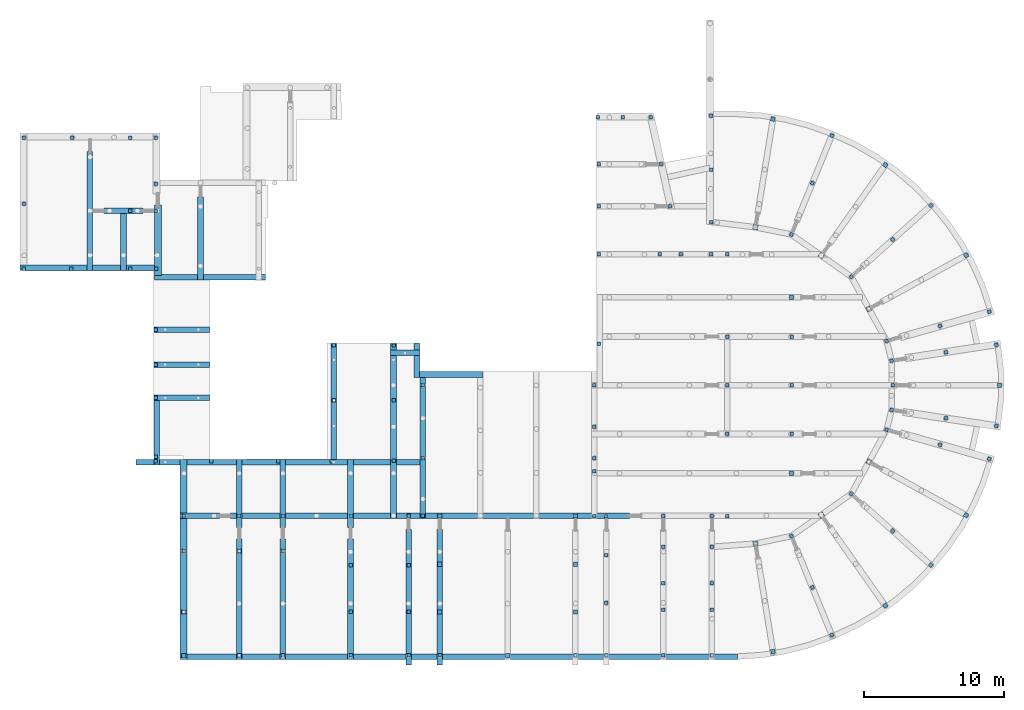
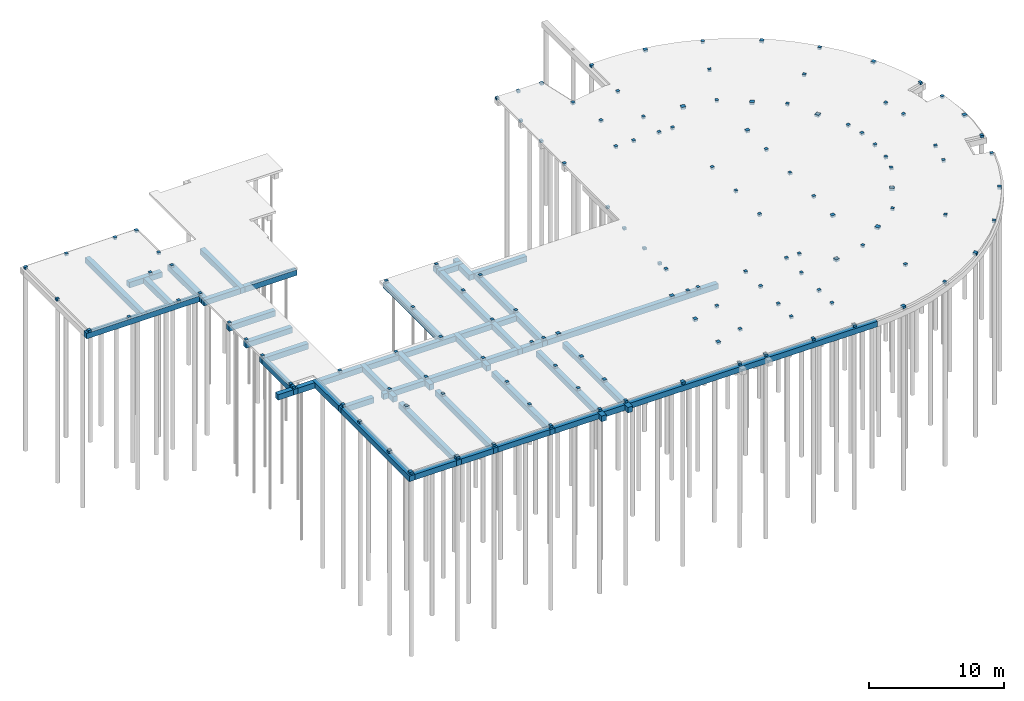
# One storey, part 4 of 22: 137 columns, 30 beams.
"""IFC2X3 building model written with IfcOpenShell, lengths in millimetres."""

import ifcopenshell
import ifcopenshell.guid

model = None  # the IFC model being written
_history = None  # IfcOwnerHistory: only IFC2X3 demands one
_inside = {}  # id of a spatial element -> (the spatial element, [elements in it])
_under = {}  # id of a project, library or spatial element -> (it, [spatial elements below it])
_declared = {}  # id of a project -> (the project, [libraries it declares])
_typed = {}  # id of a type object -> (the type object, [elements of that type])
_made_of = {}  # id of a material, layer set ... -> (it, [elements and type objects made of it])


def new_model(schema):
    """Start an empty IFC model of exactly this schema.

    Asked for "IFC4X3", IfcOpenShell would pick the latest addendum, in which some entities
    have other attributes; the version numbers below select the first issue.
    IFC2X3 requires an IfcOwnerHistory on every rooted entity: one is made here for all.
    """
    global model, _history
    if schema == "IFC4X3":
        model = ifcopenshell.file(schema_version=(4, 3, 0, 0))
    else:
        model = ifcopenshell.file(schema=schema)
    _inside.clear()
    _under.clear()
    _declared.clear()
    _typed.clear()
    _made_of.clear()
    _history = None
    if model.schema == "IFC2X3":
        org = make("IfcOrganization", Name="unknown")
        user = make(
            "IfcPersonAndOrganization",
            ThePerson=make("IfcPerson", FamilyName="unknown"),
            TheOrganization=org,
        )
        app = make(
            "IfcApplication",
            ApplicationDeveloper=org,
            Version="unknown",
            ApplicationFullName="unknown",
            ApplicationIdentifier="unknown",
        )
        _history = make(
            "IfcOwnerHistory",
            OwningUser=user,
            OwningApplication=app,
            ChangeAction="ADDED",
            CreationDate=0,
        )
    return model


def make(cls, **values):
    """One entity of the class cls with the attributes given. An attribute that is None is left unset."""
    return model.create_entity(
        cls, **{name: value for name, value in values.items() if value is not None}
    )


def rooted(cls, **values):
    """An entity with a GlobalId (a new one), such as an element, a storey or a relation."""
    return make(cls, GlobalId=ifcopenshell.guid.new(), OwnerHistory=_history, **values)


def si_unit(unit_type, name, prefix=None):
    """IfcSIUnit, for example si_unit("LENGTHUNIT", "METRE", prefix="MILLI")."""
    return make("IfcSIUnit", UnitType=unit_type, Prefix=prefix, Name=name)


def assignment(units):
    """IfcUnitAssignment: the units of a project."""
    return None if units is None else make("IfcUnitAssignment", Units=units)


def point(xyz):
    """IfcCartesianPoint."""
    return None if xyz is None else make("IfcCartesianPoint", Coordinates=xyz)


def direction(xyz):
    """IfcDirection."""
    return None if xyz is None else make("IfcDirection", DirectionRatios=xyz)


def frame(location, z_axis=None, x_axis=None):
    """IfcAxis2Placement3D, a coordinate frame: its origin and axes. An axis left out is left unset."""
    return make(
        "IfcAxis2Placement3D",
        Location=point(location),
        Axis=direction(z_axis),
        RefDirection=direction(x_axis),
    )


def frame_2d(location, x_axis=None):
    """IfcAxis2Placement2D, a coordinate frame in the plane: its origin and x axis."""
    return make(
        "IfcAxis2Placement2D", Location=point(location), RefDirection=direction(x_axis)
    )


def origin_with_axes():
    """The frame at (0, 0, 0) with the z axis (0, 0, 1) and the x axis (1, 0, 0) written out."""
    return frame((0.0, 0.0, 0.0), z_axis=(0.0, 0.0, 1.0), x_axis=(1.0, 0.0, 0.0))


def origin_2d_with_axis():
    """The frame at (0, 0) in the plane with the x axis (1, 0) written out."""
    return frame_2d((0.0, 0.0), x_axis=(1.0, 0.0))


def place(relative_to, where):
    """IfcLocalPlacement: puts the frame where relative to a parent placement (None: the world)."""
    return make(
        "IfcLocalPlacement", PlacementRelTo=relative_to, RelativePlacement=where
    )


def context(
    kind, dimensions, precision=None, world=None, true_north=None, identifier=None
):
    """IfcGeometricRepresentationContext, for example the 3D "Model" context."""
    return make(
        "IfcGeometricRepresentationContext",
        ContextIdentifier=identifier,
        ContextType=kind,
        CoordinateSpaceDimension=dimensions,
        Precision=precision,
        WorldCoordinateSystem=world,
        TrueNorth=true_north,
    )


def subcontext(parent, identifier, kind, view, scale=None):
    """IfcGeometricRepresentationSubContext, for example "Body" below "Model"."""
    return make(
        "IfcGeometricRepresentationSubContext",
        ContextIdentifier=identifier,
        ContextType=kind,
        ParentContext=parent,
        TargetScale=scale,
        TargetView=view,
    )


def project(units=None, contexts=None):
    """IfcProject with its units and contexts."""
    return rooted(
        "IfcProject",
        Name="project",
        RepresentationContexts=contexts,
        UnitsInContext=assignment(units),
    )


def spatial(cls, under=None, at=None, **own):
    """A site, building, storey or space (cls), placed at a placement, below another one or the project."""
    s = rooted(cls, ObjectPlacement=at, **own)
    if under is not None:
        _under.setdefault(under.id(), (under, []))[1].append(s)
    return s


def profile(cls, at=None, kind="AREA", **sizes):
    """A parametric profile (cls). Its sizes go by their IFC names, for example OverallWidth=200.0."""
    return make(cls, ProfileType=kind, Position=at, **sizes)


def rectangle(**sizes):
    """IfcRectangleProfileDef."""
    return profile("IfcRectangleProfileDef", **sizes)


def extrude(swept, where, along, depth):
    """IfcExtrudedAreaSolid: the profile swept, set in the frame where, extruded along a direction by depth."""
    return make(
        "IfcExtrudedAreaSolid",
        SweptArea=swept,
        Position=where,
        ExtrudedDirection=direction(along),
        Depth=depth,
    )


def clip(a, b, op="DIFFERENCE"):
    """IfcBooleanClippingResult: the solid a cut by the half space b."""
    return make(
        "IfcBooleanClippingResult", Operator=op, FirstOperand=a, SecondOperand=b
    )


def halfspace(plane, agree):
    """IfcHalfSpaceSolid: all space on one side of the plane z = 0 of the frame plane."""
    return make(
        "IfcHalfSpaceSolid",
        BaseSurface=make("IfcPlane", Position=plane),
        AgreementFlag=agree,
    )


def faces_of(points, faces, orient=None, outer=None):
    """IfcFace entities. A face is a list of loops; a loop is a list of indices into points, from 0.

    orient and outer hold one flag for each loop. By default every Orientation is true, the
    first loop of a face is its IfcFaceOuterBound and the others are IfcFaceBound.
    """
    made = []
    for i, loops in enumerate(faces):
        bounds = []
        for j, loop in enumerate(loops):
            is_outer = j == 0 if outer is None else outer[i][j]
            bounds.append(
                make(
                    "IfcFaceOuterBound" if is_outer else "IfcFaceBound",
                    Bound=make("IfcPolyLoop", Polygon=[points[k] for k in loop]),
                    Orientation=True if orient is None else orient[i][j],
                )
            )
        made.append(make("IfcFace", Bounds=bounds))
    return made


def faceted_brep(points, faces, orient=None, outer=None, voids=None):
    """IfcFacetedBrep: a solid bounded by flat faces; with voids (closed shells), ...WithVoids."""
    shared = [point(p) for p in points]
    hull = make("IfcClosedShell", CfsFaces=faces_of(shared, faces, orient, outer))
    if voids is None:
        return make("IfcFacetedBrep", Outer=hull)
    return make(
        "IfcFacetedBrepWithVoids",
        Outer=hull,
        Voids=[
            make(cls, CfsFaces=faces_of(shared, fs, o, b)) for cls, fs, o, b in voids
        ],
    )


def shape(context_of_items, identifier, shape_type, items):
    """IfcShapeRepresentation: the items that make up one representation, for example the "Body"."""
    return make(
        "IfcShapeRepresentation",
        ContextOfItems=context_of_items,
        RepresentationIdentifier=identifier,
        RepresentationType=shape_type,
        Items=items,
    )


def material(Name=None, Category=None):
    """IfcMaterial."""
    return make("IfcMaterial", Name=Name, Category=Category)


def made_of(thing, what):
    """Note that an element or type object is made of a material, layer set ...; save() writes the relation."""
    if what is not None:
        _made_of.setdefault(what.id(), (what, []))[1].append(thing)
    return thing


def type_object(cls, material=None, **own):
    """A type object (cls), such as IfcWallType, which elements share."""
    return made_of(rooted(cls, **own), material)


def element(
    cls,
    number,
    at=None,
    inside=None,
    cuts=None,
    type_object=None,
    material=None,
    context=None,
    identifier="Body",
    shape_type=None,
    held_by="IfcProductDefinitionShape",
    body=None,
    shapes=None,
    **own,
):
    """One element of the class cls, such as IfcWall. Its Tag is "e" and its number.

    at: its placement. inside: the storey or other place that contains it. cuts: it is an
    opening in that element (IfcRelVoidsElement). A single representation is given by context,
    identifier, shape_type and body (its items); several are given by shapes. held_by: the class
    of the entity that holds the representations. save() writes the other relations.
    """
    e = rooted(cls, Tag="e%d" % number, ObjectPlacement=at, **own)
    if body is not None:
        shapes = [shape(context, identifier, shape_type, body)]
    if shapes is not None:
        e.Representation = make(held_by, Representations=shapes)
    if inside is not None:
        _inside.setdefault(inside.id(), (inside, []))[1].append(e)
    if cuts is not None:
        rooted(
            "IfcRelVoidsElement", RelatingBuildingElement=cuts, RelatedOpeningElement=e
        )
    if type_object is not None:
        _typed.setdefault(type_object.id(), (type_object, []))[1].append(e)
    return made_of(e, material)


def aggregate(whole, parts):
    """IfcRelAggregates: a whole, such as a stair, and the parts it consists of."""
    return rooted("IfcRelAggregates", RelatingObject=whole, RelatedObjects=parts)


def save(model, path):
    """Write the relations noted so far, then the file.

    IfcRelAggregates (storeys below a building ...), IfcRelContainedInSpatialStructure (elements
    in a storey), IfcRelDefinesByType, IfcRelAssociatesMaterial and IfcRelDeclares: one each for
    every whole, place, type object, material and project.
    """
    for whole, parts in _under.values():
        aggregate(whole, parts)
    for where, things in _inside.values():
        rooted(
            "IfcRelContainedInSpatialStructure",
            RelatedElements=things,
            RelatingStructure=where,
        )
    for kind, things in _typed.values():
        rooted("IfcRelDefinesByType", RelatedObjects=things, RelatingType=kind)
    for what, things in _made_of.values():
        rooted("IfcRelAssociatesMaterial", RelatedObjects=things, RelatingMaterial=what)
    for by, libraries in _declared.values():
        rooted("IfcRelDeclares", RelatingContext=by, RelatedDefinitions=libraries)
    model.write(path)


model = new_model("IFC2X3")

# Units and contexts
model_context = context("Model", 3, precision=1e-05, world=origin_with_axes())
body_context = subcontext(model_context, "Body", "Model", "MODEL_VIEW")
ifc_project = project(units=[si_unit("LENGTHUNIT", "METRE", prefix="MILLI"), si_unit("AREAUNIT", "SQUARE_METRE"), si_unit("VOLUMEUNIT", "CUBIC_METRE"), si_unit("MASSUNIT", "GRAM", prefix="KILO"), si_unit("TIMEUNIT", "SECOND"), si_unit("PLANEANGLEUNIT", "RADIAN"), si_unit("SOLIDANGLEUNIT", "STERADIAN"), si_unit("THERMODYNAMICTEMPERATUREUNIT", "DEGREE_CELSIUS"), si_unit("LUMINOUSINTENSITYUNIT", "LUMEN")], contexts=[model_context])

# Site, building, storey
site_placement = place(None, origin_with_axes())
site = spatial("IfcSite", under=ifc_project, at=site_placement, Name="Undefined", CompositionType="ELEMENT")
building_placement = place(site_placement, origin_with_axes())
building = spatial("IfcBuilding", under=site, at=building_placement, Name="Undefined", CompositionType="ELEMENT")
storey_placement = place(building_placement, origin_with_axes())
storey = spatial("IfcBuildingStorey", under=building, at=storey_placement, Name="Undefined", CompositionType="ELEMENT", Elevation=0.0)

# Columns
ifc_material = material(Name="CONCRETE/C30/37")
column_type_1 = type_object("IfcColumnType", Name="250*250", PredefinedType="NOTDEFINED")
for number, where, z_axis, x_axis in (
    (1, (9539.36801665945, 14505.0582896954, -270.0), (1.0, 0.0, 0.0), (0.0, 0.0, 1.0)),
    (2, (50451.5705191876, 28990.6363962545, -270.0), (-1.0, 0.0, 0.0), (0.0, 0.0, 1.0)),
    (3, (45626.2295906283, 28990.5771686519, -270.0), (1.0, 0.0, 0.0), (0.0, 0.0, 1.0)),
    (4, (47139.9714044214, 28990.5771686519, -270.0), (1.0, 0.0, 0.0), (0.0, 0.0, 1.0)),
    (5, (49301.5705191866, 28990.6363962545, -270.0), (-1.0, 0.0, 0.0), (0.0, 0.0, 1.0)),
    (6, (55068.8414911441, 16128.3301151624, -270.0), (1.0, 0.0, 0.0), (0.0, 0.0, 1.0)),
    (7, (55068.821233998, 19616.1095999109, -270.0), (0.0, 1.0, 0.0), (0.0, 0.0, 1.0)),
    (8, (56555.1689494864, 34103.0371662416, -270.0), (-0.381013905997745, -0.924569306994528, 0.0), (0.0, 0.0, 1.0)),
    (9, (62309.404139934, 30048.4623866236, -270.0), (-0.745582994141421, -0.66641278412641, 0.0), (0.0, 0.0, 1.0)),
    (10, (65698.6898355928, 23878.9172437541, -270.0), (-0.962244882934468, -0.272185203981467, 0.0), (0.0, 0.0, 1.0)),
    (11, (66109.3119399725, 21971.2258455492, -270.0), (-0.988598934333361, -0.150572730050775, 0.0), (0.0, 0.0, 1.0)),
    (12, (56552.5162358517, 5135.18426346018, -270.0), (-0.377930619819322, 0.925833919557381, 0.0), (0.0, 0.0, 1.0)),
    (13, (62304.1295440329, 9188.40115699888, -270.0), (-0.745540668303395, 0.666460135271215, 0.0), (0.0, 0.0, 1.0)),
    (14, (9540.04928344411, 32118.3665420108, -270.0), (1.0, 0.0, 0.0), (0.0, 0.0, 1.0)),
    (15, (9540.04987094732, 34037.0837576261, -270.0), (1.0, 0.0, 0.0), (0.0, 0.0, 1.0)),
    (16, (9539.97038619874, 37325.9367057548, -270.0), (0.0, -1.0, 0.0), (0.0, 0.0, 1.0)),
    (17, (7710.08014037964, 37325.9569629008, -270.0), (1.0, 0.0, 0.0), (0.0, 0.0, 1.0)),
    (18, (3564.0790151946, 37325.9569629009, -270.0), (1.0, 0.0, 0.0), (0.0, 0.0, 1.0)),
    (19, (7710.07955287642, 32118.3665420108, -270.0), (1.0, 0.0, 0.0), (0.0, 0.0, 1.0)),
    (20, (90.2632341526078, 37325.9367057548, -270.0), (0.0, -1.0, 0.0), (0.0, 0.0, 1.0)),
    (21, (90.2632341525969, 32618.4367057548, -270.0), (0.0, -1.0, 0.0), (0.0, 0.0, 1.0)),
    (22, (90.2632341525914, 27950.9486812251, -270.0), (0.0, -1.0, 0.0), (0.0, 0.0, 1.0)),
    (23, (3480.71294696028, 27950.9626634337, -270.0), (0.0, -1.0, 0.0), (0.0, 0.0, 1.0)),
    (24, (7710.00065563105, 27950.9801050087, -270.0), (0.0, -1.0, 0.0), (0.0, 0.0, 1.0)),
    (25, (9550.00076344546, 27950.9866621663, -270.0), (0.0, -1.0, 0.0), (0.0, 0.0, 1.0)),
    (26, (9539.46123149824, 23603.6793183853, -270.0), (0.0, 1.0, 0.0), (0.0, 0.0, 1.0)),
    (27, (9539.34774425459, 21103.6780213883, -270.0), (0.0, 1.0, 0.0), (0.0, 0.0, 1.0)),
    (28, (9539.34774425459, 18715.7786225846, -270.0), (0.0, 1.0, 0.0), (0.0, 0.0, 1.0)),
    (29, (46348.2318284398, 32438.6867277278, -270.0), (0.216747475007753, -0.976227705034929, 0.0), (0.0, 0.0, 1.0)),
    (30, (45704.4473474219, 35454.4148490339, -270.0), (0.216747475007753, -0.976227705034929, 0.0), (0.0, 0.0, 1.0)),
    (31, (44963.8886172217, 38821.5403393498, -290.0), (1.0, 0.0, 0.0), (0.0, 0.0, 1.0)),
    (32, (42977.3781667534, 38821.5403393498, -290.0), (1.0, 0.0, 0.0), (0.0, 0.0, 1.0)),
    (33, (41183.1166814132, 38821.5403393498, -290.0), (1.0, 0.0, 0.0), (0.0, 0.0, 1.0)),
    (34, (41238.0964242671, 35452.1198240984, -290.0), (0.0, 1.0, 0.0), (0.0, 0.0, 1.0)),
    (35, (41238.066423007, 28990.5771686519, -270.0), (1.0, 0.0, 0.0), (0.0, 0.0, 1.0)),
    (36, (41238.096424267, 32438.7917027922, -290.0), (0.0, 1.0, 0.0), (0.0, 0.0, 1.0)),
    (37, (40940.6981309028, 13462.0523445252, -270.0), (0.0, 1.0, 0.0), (0.0, 0.0, 1.0)),
    (38, (40940.6964242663, 14397.3701214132, -290.0), (0.0, 1.0, 0.0), (0.0, 0.0, 1.0)),
    (39, (40943.0964242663, 16648.4420717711, -290.0), (0.0, 1.0, 0.0), (0.0, 0.0, 1.0)),
    (40, (40940.6964242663, 19616.109599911, -290.0), (0.0, 1.0, 0.0), (0.0, 0.0, 1.0)),
    (41, (41241.5964242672, 22588.6805371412, -290.0), (0.0, 1.0, 0.0), (0.0, 0.0, 1.0)),
    (42, (50451.6500039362, 16128.509599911, -270.0), (0.0, 1.0, 0.0), (0.0, 0.0, 1.0)),
    (43, (50451.6500039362, 19616.1095999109, -270.0), (0.0, 1.0, 0.0), (0.0, 0.0, 1.0)),
    (44, (50451.6500039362, 23108.509599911, -270.0), (0.0, 1.0, 0.0), (0.0, 0.0, 1.0)),
    (45, (55068.7417492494, 23108.4783694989, -270.0), (-1.0, 0.0, 0.0), (0.0, 0.0, 1.0)),
    (46, (49301.5705191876, 35065.3726987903, -270.0), (-1.0, 0.0, 0.0), (0.0, 0.0, 1.0)),
    (47, (49301.5705191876, 31283.4631687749, -270.0), (-1.0, 0.0, 0.0), (0.0, 0.0, 1.0)),
    (48, (55050.5790332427, 30415.812837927, -270.0), (-0.924569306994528, 0.381013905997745, 0.0), (0.0, 0.0, 1.0)),
    (49, (59338.9747567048, 27391.5335348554, -270.0), (-0.666412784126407, 0.745582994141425, 0.0), (0.0, 0.0, 1.0)),
    (50, (61866.9709389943, 22793.5862886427, -270.0), (-0.272185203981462, 0.962244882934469, 0.0), (0.0, 0.0, 1.0)),
    (51, (62224.0760046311, 21379.4734952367, -270.0), (-0.150572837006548, 0.988598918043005, 0.0), (0.0, 0.0, 1.0)),
    (52, (62312.2730479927, 19616.1100423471, -270.0), (0.0, 1.0, 0.0), (0.0, 0.0, 1.0)),
    (53, (62224.0772075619, 17852.6335269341, -270.0), (0.149766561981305, 0.988721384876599, 0.0), (0.0, 0.0, 1.0)),
    (54, (61869.6111647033, 16437.8822317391, -270.0), (0.27210489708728, 0.962267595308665, 0.0), (0.0, 0.0, 1.0)),
    (55, (59336.6378310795, 11842.8737959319, -270.0), (0.666460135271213, 0.745540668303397, 0.0), (0.0, 0.0, 1.0)),
    (56, (55049.4105307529, 8820.75540069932, -270.0), (0.925833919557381, 0.377930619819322, 0.0), (0.0, 0.0, 1.0)),
    (57, (50451.6702610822, 10245.9944815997, -270.0), (1.0, 0.0, 0.0), (0.0, 0.0, 1.0)),
    (58, (49361.6702610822, 10245.9944815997, -270.0), (1.0, 0.0, 0.0), (0.0, 0.0, 1.0)),
    (59, (45874.0252746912, 10245.9944815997, -270.0), (1.0, 0.0, 0.0), (0.0, 0.0, 1.0)),
    (60, (40927.3059057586, 10246.0024978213, -270.0), (1.0, 0.0, 0.0), (0.0, 0.0, 1.0)),
    (61, (41807.335787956, 10245.9944815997, -270.0), (1.0, 0.0, 0.0), (0.0, 0.0, 1.0)),
    (62, (23484.8960958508, 10274.1906366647, -270.0), (1.0, 0.0, 0.0), (0.0, 0.0, 1.0)),
    (63, (27631.6960958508, 10274.1906366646, -270.0), (1.0, 0.0, 0.0), (0.0, 0.0, 1.0)),
    (64, (28660.7463049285, 10274.1988326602, -270.0), (1.0, 0.0, 0.0), (0.0, 0.0, 1.0)),
    (65, (28660.6652205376, 19616.0098580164, -270.0), (0.0, -1.0, 0.0), (0.0, 0.0, 1.0)),
    (66, (28660.6652205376, 14397.2703795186, -270.0), (0.0, -1.0, 0.0), (0.0, 0.0, 1.0)),
    (67, (26557.1957597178, 14215.9944815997, -270.0), (1.0, 0.0, 0.0), (0.0, 0.0, 1.0)),
    (68, (26557.1957597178, 18535.8658141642, -270.0), (1.0, 0.0, 0.0), (0.0, 0.0, 1.0)),
    (69, (26557.1957597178, 22465.7457863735, -270.0), (1.0, 0.0, 0.0), (0.0, 0.0, 1.0)),
    (70, (22289.0498709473, 22468.1457863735, -270.0), (1.0, 0.0, 0.0), (0.0, 0.0, 1.0)),
    (71, (22289.0498709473, 18538.2658141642, -270.0), (1.0, 0.0, 0.0), (0.0, 0.0, 1.0)),
    (72, (22120.0498709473, 14184.7887526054, -270.0), (1.0, 0.0, 0.0), (0.0, 0.0, 1.0)),
    (73, (18320.0498709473, 14184.7887526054, -270.0), (1.0, 0.0, 0.0), (0.0, 0.0, 1.0)),
    (74, (13520.0498709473, 14184.7887526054, -270.0), (1.0, 0.0, 0.0), (0.0, 0.0, 1.0)),
    (75, (9539.36801665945, 14184.7887526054, -270.0), (1.0, 0.0, 0.0), (0.0, 0.0, 1.0)),
    (76, (11541.9807392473, 10274.1785602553, -270.0), (0.0, -1.0, 0.0), (0.0, 0.0, 1.0)),
    (77, (11541.9808150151, 7759.86819259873, -270.0), (0.0, -1.0, 0.0), (0.0, 0.0, 1.0)),
    (78, (15506.5602997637, 10274.1906366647, -270.0), (1.0, 0.0, 0.0), (0.0, 0.0, 1.0)),
    (79, (18632.7447052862, 10274.1906366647, -270.0), (1.0, 0.0, 0.0), (0.0, 0.0, 1.0)),
    (80, (18632.7447052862, 7749.73626611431, -270.0), (1.0, 0.0, 0.0), (0.0, 0.0, 1.0)),
    (81, (23484.8960958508, 6719.23626611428, -270.0), (1.0, 0.0, 0.0), (0.0, 0.0, 1.0)),
    (82, (23484.8960958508, 3385.68914714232, -270.0), (1.0, 0.0, 0.0), (0.0, 0.0, 1.0)),
    (83, (27631.6960958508, 6719.23626611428, -270.0), (1.0, 0.0, 0.0), (0.0, 0.0, 1.0)),
    (84, (27631.6960958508, 3388.09710994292, -270.0), (1.0, 0.0, 0.0), (0.0, 0.0, 1.0)),
    (85, (41807.335787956, 4027.59160850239, -270.0), (1.0, 0.0, 0.0), (0.0, 0.0, 1.0)),
    (86, (41807.335787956, 7461.39739015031, -270.0), (1.0, 0.0, 0.0), (0.0, 0.0, 1.0)),
    (87, (45874.4817429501, 8055.40299283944, -270.0), (1.0, 0.0, 0.0), (0.0, 0.0, 1.0)),
    (88, (45874.0084009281, 5439.6315025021, -270.0), (1.0, 0.0, 0.0), (0.0, 0.0, 1.0)),
    (89, (45874.0084009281, 3530.69632610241, -270.0), (1.0, 0.0, 0.0), (0.0, 0.0, 1.0)),
    (90, (49362.1702610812, 8046.13157798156, -270.0), (1.0, 0.0, 0.0), (0.0, 0.0, 1.0)),
    (91, (49362.1702610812, 5453.09632610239, -270.0), (1.0, 0.0, 0.0), (0.0, 0.0, 1.0)),
    (92, (49362.1702610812, 3537.0963261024, -270.0), (1.0, 0.0, 0.0), (0.0, 0.0, 1.0)),
    (93, (66112.6157205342, 17260.4118313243, -270.0), (0.149766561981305, 0.988721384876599, 0.0), (0.0, 0.0, 1.0)),
    (94, (65696.6598935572, 15353.831189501, -270.0), (0.27210489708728, 0.962267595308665, 0.0), (0.0, 0.0, 1.0)),
    (95, (49301.5907763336, 38927.2289512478, -270.0), (0.0, -1.0, 0.0), (0.0, 0.0, 1.0)),
    (96, (57938.268101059, 37494.0010410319, -270.0), (-0.381013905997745, -0.924569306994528, 0.0), (0.0, 0.0, 1.0)),
    (97, (65036.978785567, 32488.3056692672, -270.0), (-0.745582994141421, -0.66641278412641, 0.0), (0.0, 0.0, 1.0)),
    (98, (69225.0201510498, 24877.6738837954, -270.0), (-0.962244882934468, -0.272185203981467, 0.0), (0.0, 0.0, 1.0)),
    (99, (69733.9940918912, 22523.2850408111, -270.0), (-0.988598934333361, -0.150572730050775, 0.0), (0.0, 0.0, 1.0)),
    (100, (69734.0074229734, 16708.5455765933, -270.0), (-0.988721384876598, 0.149766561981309, 0.0), (0.0, 0.0, 1.0)),
    (101, (69225.1545053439, 14354.4633085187, -270.0), (-0.962267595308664, 0.272104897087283, 0.0), (0.0, 0.0, 1.0)),
    (102, (65037.7021218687, 6743.87872642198, -270.0), (-0.745540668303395, 0.666460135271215, 0.0), (0.0, 0.0, 1.0)),
    (103, (57938.4982819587, 1738.23413082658, -270.0), (-0.377930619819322, 0.925833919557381, 0.0), (0.0, 0.0, 1.0)),
    (104, (49362.1500039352, 274.671085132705, -270.0), (0.0, 1.0, 0.0), (0.0, 0.0, 1.0)),
    (105, (45873.9881437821, 274.671085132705, -270.0), (0.0, 1.0, 0.0), (0.0, 0.0, 1.0)),
    (106, (41807.31553081, 274.671093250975, -270.0), (0.0, 1.0, 0.0), (0.0, 0.0, 1.0)),
    (107, (39587.3091504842, 274.671093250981, -270.0), (0.0, 1.0, 0.0), (0.0, 0.0, 1.0)),
    (108, (29874.5272292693, 274.671093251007, -270.0), (0.0, 1.0, 0.0), (0.0, 0.0, 1.0)),
    (109, (27656.5255355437, 274.621345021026, -270.0), (0.0, 1.0, 0.0), (0.0, 0.0, 1.0)),
    (110, (23484.8610417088, 270.47870433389, -270.0), (0.0, 1.0, 0.0), (0.0, 0.0, 1.0)),
    (111, (18638.7096511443, 274.721345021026, -270.0), (0.0, 1.0, 0.0), (0.0, 0.0, 1.0)),
):
    element("IfcColumn", number, at=place(storey_placement, frame(where, z_axis=z_axis, x_axis=x_axis)), inside=storey, type_object=column_type_1, material=ifc_material, Name="Opstort", context=body_context, shape_type="Brep", body=[
        faceted_brep([(0.0, 125.0, -125.0), (0.0, 125.0, 125.0), (200.0, 125.0, 125.0), (200.0, 125.0, -125.0), (0.0, -125.0, 125.0), (200.0, -125.0, 125.0), (0.0, -125.0, -125.0), (200.0, -125.0, -125.0)], [[[0, 1, 2, 3]], [[1, 4, 5, 2]], [[4, 6, 7, 5]], [[6, 0, 3, 7]], [[5, 7, 3, 2]], [[6, 4, 1, 0]]]),
    ])
column_type_2 = type_object("IfcColumnType", Name="300*300", PredefinedType="NOTDEFINED")
for number, where, z_axis, x_axis in (
    (112, (29873.8534425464, 10245.9272080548, -270.0), (0.00110945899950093, 0.999999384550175, 0.0), (0.0, 0.0, 1.0)),
    (113, (39586.6334413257, 10246.226600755, -270.0), (0.00110945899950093, 0.999999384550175, 0.0), (0.0, 0.0, 1.0)),
    (114, (55068.836123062, 13315.6140477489, -270.0), (0.999999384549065, -0.00110945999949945, 0.0), (0.0, 0.0, 1.0)),
    (115, (55068.7471173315, 25918.0774675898, -270.0), (-0.999999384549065, 0.00110945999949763, 0.0), (0.0, 0.0, 1.0)),
    (116, (39587.3167332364, 6802.41165429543, -270.0), (0.00110945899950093, 0.999999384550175, 0.0), (0.0, 0.0, 1.0)),
    (117, (39587.3167332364, 3385.76326380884, -270.0), (0.00110945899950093, 0.999999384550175, 0.0), (0.0, 0.0, 1.0)),
    (118, (29874.5348120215, 6802.41165429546, -270.0), (0.00110945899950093, 0.999999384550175, 0.0), (0.0, 0.0, 1.0)),
    (119, (29874.5348120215, 3385.76326380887, -270.0), (0.00110945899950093, 0.999999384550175, 0.0), (0.0, 0.0, 1.0)),
    (120, (15506.4732322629, 7753.87356068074, -270.0), (-0.00110945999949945, -0.999999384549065, 0.0), (0.0, 0.0, 1.0)),
    (121, (11541.9728665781, 3388.23220714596, -270.0), (-0.00110945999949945, -0.999999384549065, 0.0), (0.0, 0.0, 1.0)),
    (122, (53729.3385216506, 38675.7845417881, -270.0), (0.160760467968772, 0.986993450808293, 0.0), (0.0, 0.0, 1.0)),
    (123, (61773.2603341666, 35395.4213427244, -270.0), (0.577462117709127, 0.816417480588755, 0.0), (0.0, 0.0, 1.0)),
    (124, (67564.4461081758, 28921.2523554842, -270.0), (-0.876861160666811, -0.480743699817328, 0.0), (0.0, 0.0, 1.0)),
    (125, (69954.7181514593, 19616.0973679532, -270.0), (-0.999999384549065, 0.00110945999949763, 0.0), (0.0, 0.0, 1.0)),
    (126, (67563.6520966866, 10311.0161476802, -270.0), (-0.875792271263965, 0.48268819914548, 0.0), (0.0, 0.0, 1.0)),
    (127, (61773.4954601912, 3836.29087666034, -270.0), (-0.575649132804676, 0.81769681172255, 0.0), (0.0, 0.0, 1.0)),
    (128, (53729.7097903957, 556.379119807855, -270.0), (-0.158570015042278, 0.987347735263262, 0.0), (0.0, 0.0, 1.0)),
    (129, (34741.311826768, 274.771093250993, -270.0), (0.0, 1.0, 0.0), (0.0, 0.0, 1.0)),
    (130, (11542.0092854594, 274.771469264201, -270.0), (0.0, 1.0, 0.0), (0.0, 0.0, 1.0)),
    (131, (15506.5096511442, 274.721345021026, -270.0), (0.0, 1.0, 0.0), (0.0, 0.0, 1.0)),
):
    element("IfcColumn", number, at=place(storey_placement, frame(where, z_axis=z_axis, x_axis=x_axis)), inside=storey, type_object=column_type_2, material=ifc_material, Name="Opstort", context=body_context, shape_type="Brep", body=[
        faceted_brep([(0.0, 149.999999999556, -149.999999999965), (0.0, 149.999999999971, 150.0000000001), (200.0, 149.999999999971, 150.0000000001), (200.0, 149.999999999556, -149.999999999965), (0.0, -149.999999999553, 149.999999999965), (200.0, -149.999999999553, 149.999999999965), (0.0, -149.99999999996, -150.0000000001), (200.0, -149.99999999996, -150.0000000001)], [[[0, 1, 2, 3]], [[1, 4, 5, 2]], [[4, 6, 7, 5]], [[6, 0, 3, 7]], [[5, 7, 3, 2]], [[6, 4, 1, 0]]]),
    ])
column_type_3 = type_object("IfcColumnType", Name="350*350", PredefinedType="NOTDEFINED")
for number, where, z_axis, x_axis in (
    (132, (52477.6024495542, 30933.1675890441, -270.0), (-0.979789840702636, 0.200029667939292, 0.0), (0.0, 0.0, 1.0)),
    (133, (57193.5937733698, 28903.8390199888, -270.0), (-0.816416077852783, 0.577464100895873, 0.0), (0.0, 0.0, 1.0)),
    (134, (60591.0653225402, 25085.5822234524, -270.0), (-0.481452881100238, 0.876471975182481, 0.0), (0.0, 0.0, 1.0)),
    (135, (60601.1926605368, 14143.1051493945, -270.0), (0.482528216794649, 0.875880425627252, 0.0), (0.0, 0.0, 1.0)),
    (136, (57192.8033470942, 10333.7543398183, -270.0), (0.818332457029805, 0.574745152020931, 0.0), (0.0, 0.0, 1.0)),
    (137, (52480.9515486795, 8277.19266374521, -270.0), (0.98745885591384, 0.157876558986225, 0.0), (0.0, 0.0, 1.0)),
):
    element("IfcColumn", number, at=place(storey_placement, frame(where, z_axis=z_axis, x_axis=x_axis)), inside=storey, type_object=column_type_3, material=ifc_material, Name="Opstort", context=body_context, shape_type="Brep", body=[
        faceted_brep([(0.0, 175.0000000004, -175.000000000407), (0.0, 174.999999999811, 175.000000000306), (200.0, 174.999999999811, 175.000000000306), (200.0, 174.999999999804, -175.00000000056), (0.0, -174.999999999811, 175.000000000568), (200.0, -174.999999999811, 175.000000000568), (0.0, -174.999999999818, -175.000000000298), (200.0, -174.999999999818, -175.000000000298)], [[[0, 1, 2, 3]], [[1, 4, 5, 2]], [[4, 6, 7, 5]], [[6, 0, 3, 7]], [[5, 7, 3, 2]], [[6, 4, 1, 0]]]),
    ])

# Beams
beam_type_1 = type_object("IfcBeamType", Name="400*500", PredefinedType="NOTDEFINED")
beam_1_placement = place(storey_placement, frame((9603.53099219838, 13909.7594193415, -520.0), z_axis=(0.0, 0.0, 1.0), x_axis=(0.0, 1.0, 0.0)))
element("IfcBeam", 138, at=beam_1_placement, inside=storey, type_object=beam_type_1, material=ifc_material, Name="BALK", context=body_context, shape_type="SweptSolid", body=[
    extrude(rectangle(XDim=400.0, YDim=500.0, at=origin_2d_with_axis()), frame((5003.7701130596, 1.81898940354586e-12, 0.0), z_axis=(-1.0, 0.0, 0.0), x_axis=(0.0, -1.0, 0.0)), (0.0, 0.0, 1.0), 5003.77),
])
beam_2_placement = place(storey_placement, frame((7220.94897512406, 27829.5078255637, -520.0), z_axis=(0.0, 0.0, 1.0), x_axis=(-2.34999999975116e-06, 0.999999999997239, 0.0)))
element("IfcBeam", 139, at=beam_2_placement, inside=storey, type_object=beam_type_1, material=ifc_material, Name="BALK", context=body_context, shape_type="SweptSolid", body=[
    extrude(rectangle(XDim=400.0, YDim=500.0, at=origin_2d_with_axis()), frame((4486.47039254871, 0.0, 0.0), z_axis=(-1.0, 0.0, 0.0), x_axis=(0.0, -1.0, 0.0)), (0.0, 0.0, 1.0), 4486.47),
])
for number, where, z_axis, x_axis, name in (
    (140, (23479.8341918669, 9423.77169555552, -520.0), (0.0, 0.0, 1.0), (0.0, 1.0, 0.0), "BALK"),
    (141, (18632.6948333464, 9423.77169555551, -520.0), (0.0, 0.0, 1.0), (0.0, 1.0, 0.0), "BALK"),
):
    element("IfcBeam", number, at=place(storey_placement, frame(where, z_axis=z_axis, x_axis=x_axis)), inside=storey, type_object=beam_type_1, material=ifc_material, Name=name, context=body_context, shape_type="Clipping", body=[
        clip(extrude(rectangle(XDim=400.0, YDim=500.0, at=origin_2d_with_axis()), frame((4886.01705704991, 0.0, 0.0), z_axis=(-1.0, 0.0, 0.0), x_axis=(0.0, -1.0, 0.0)), (0.0, 0.0, 1.0), 4886.02), halfspace(frame((4886.01705704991, 0.0, 0.0), z_axis=(1.0, 0.0, 0.0), x_axis=(0.0, 0.0, 1.0)), False)),
    ])
beam_3_placement = place(storey_placement, frame((15506.5104842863, 9423.77169555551, -520.0), z_axis=(0.0, 0.0, 1.0), x_axis=(0.0, 1.0, 0.0)))
element("IfcBeam", 142, at=beam_3_placement, inside=storey, type_object=beam_type_1, material=ifc_material, Name="BALK", context=body_context, shape_type="Clipping", body=[
    clip(extrude(rectangle(XDim=400.0, YDim=500.0, at=origin_2d_with_axis()), frame((4886.01705704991, 0.0, 0.0), z_axis=(-1.0, 0.0, 0.0), x_axis=(0.0, -1.0, 0.0)), (0.0, 0.0, 1.0), 4886.02), halfspace(frame((4886.01705704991, 0.0, 0.0), z_axis=(-1.0, 0.0, 0.0), x_axis=(0.0, 0.0, -1.0)), True)),
])
beam_4_placement = place(storey_placement, frame((14886.4997329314, 10273.6240965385, -520.0), z_axis=(0.0, 0.0, 1.0), x_axis=(1.0, 0.0, 0.0)))
element("IfcBeam", 143, at=beam_4_placement, inside=storey, type_object=beam_type_1, material=ifc_material, Name="BALK", context=body_context, shape_type="SweptSolid", body=[
    extrude(rectangle(XDim=400.0, YDim=500.0, at=origin_2d_with_axis()), frame((28554.1666887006, 0.0, 0.0), z_axis=(-1.0, 0.0, 0.0), x_axis=(0.0, -1.0, 0.0)), (0.0, 0.0, 1.0), 28554.17),
])
beam_5_placement = place(storey_placement, frame((8625.00076293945, 32115.9883117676, -520.0), z_axis=(0.0, 0.0, 1.0), x_axis=(-0.999999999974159, -7.18899999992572e-06, 0.0)))
element("IfcBeam", 144, at=beam_5_placement, inside=storey, type_object=beam_type_1, material=ifc_material, Name="BALK", context=body_context, shape_type="SweptSolid", body=[
    extrude(rectangle(XDim=400.0, YDim=500.0, at=origin_2d_with_axis()), frame((2808.07984805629, -2.37853614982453e-18, 1.13686837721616e-13), z_axis=(-1.0, 0.0, 0.0), x_axis=(0.0, -1.0, 0.0)), (0.0, 0.0, 1.0), 2808.08),
])
beam_6_placement = place(storey_placement, frame((28450.6958697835, 21935.7959517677, -520.0), z_axis=(0.0, 0.0, 1.0), x_axis=(-1.0, 0.0, 0.0)))
element("IfcBeam", 145, at=beam_6_placement, inside=storey, type_object=beam_type_1, material=ifc_material, Name="BALK", context=body_context, shape_type="Clipping", body=[
    clip(clip(extrude(rectangle(XDim=400.0, YDim=500.0, at=origin_2d_with_axis()), frame((2093.55016271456, 0.0, 0.0), z_axis=(-1.0, 0.0, 0.0), x_axis=(0.0, -1.0, 0.0)), (0.0, 0.0, 1.0), 2093.55), halfspace(frame((2093.55016271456, 0.0, 0.0), z_axis=(1.0, 0.0, 0.0), x_axis=(0.0, 0.0, 1.0)), False)), halfspace(frame((16.6953952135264, 0.0, 0.0), z_axis=(1.0, 0.0, 0.0), x_axis=(0.0, 0.0, -1.0)), True)),
])
beam_7_placement = place(storey_placement, frame((28234.0004798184, 20186.3195997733, -520.0), z_axis=(0.0, 0.0, 1.0), x_axis=(0.0, 1.0, 0.0)))
element("IfcBeam", 146, at=beam_7_placement, inside=storey, type_object=beam_type_1, material=ifc_material, Name="BALK", context=body_context, shape_type="SweptSolid", body=[
    extrude(rectangle(XDim=400.0, YDim=500.0, at=origin_2d_with_axis()), frame((2429.47701896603, 0.0, 0.0), z_axis=(-1.0, 0.0, 0.0), x_axis=(0.0, -1.0, 0.0)), (0.0, 0.0, 1.0), 2429.48),
])
beam_8_placement = place(storey_placement, frame((32957.9916183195, 20386.3202673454, -520.0), z_axis=(0.0, 0.0, 1.0), x_axis=(-1.0, 0.0, 0.0)))
element("IfcBeam", 147, at=beam_8_placement, inside=storey, type_object=beam_type_1, material=ifc_material, Name="BALK", context=body_context, shape_type="Clipping", body=[
    clip(extrude(rectangle(XDim=400.0, YDim=500.0, at=origin_2d_with_axis()), frame((4923.99113970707, 0.0, 0.0), z_axis=(-1.0, 0.0, 0.0), x_axis=(0.0, -1.0, 0.0)), (0.0, 0.0, 1.0), 4923.99), halfspace(frame((4923.99113970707, 0.0, 0.0), z_axis=(1.0, 0.0, 0.0), x_axis=(0.0, 0.0, -1.0)), False)),
])
beam_9_placement = place(storey_placement, frame((4816.92147825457, 27829.5154778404, -520.0), z_axis=(0.0, 0.0, 1.0), x_axis=(-1.13299999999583e-06, 0.999999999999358, 0.0)))
element("IfcBeam", 148, at=beam_9_placement, inside=storey, type_object=beam_type_1, material=ifc_material, Name="BALK", context=body_context, shape_type="SweptSolid", body=[
    extrude(rectangle(XDim=400.0, YDim=500.0, at=origin_2d_with_axis()), frame((8536.47039256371, 1.80766791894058e-18, 0.0), z_axis=(-1.0, 0.0, 0.0), x_axis=(0.0, -1.0, 0.0)), (0.0, 0.0, 1.0), 8536.47),
])
beam_10_placement = place(storey_placement, frame((9825.00076293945, 28025.9883117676, -520.0), z_axis=(0.0, 0.0, 1.0), x_axis=(-0.999999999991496, -4.12400000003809e-06, 0.0)))
element("IfcBeam", 149, at=beam_10_placement, inside=storey, type_object=beam_type_1, material=ifc_material, Name="BALK", context=body_context, shape_type="Clipping", body=[
    clip(extrude(rectangle(XDim=400.0, YDim=500.0, at=origin_2d_with_axis()), frame((10016.3521303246, 0.0, 1.13686837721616e-13), z_axis=(-1.0, 0.0, 0.0), x_axis=(0.0, -1.0, 0.0)), (0.0, 0.0, 1.0), 10116.35), halfspace(frame((-100.000000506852, 1.81898940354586e-10, 1.13686837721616e-13), z_axis=(-0.999999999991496, 4.12399999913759e-06, 0.0), x_axis=(0.0, 0.0, 1.0)), False)),
])
beam_11_placement = place(storey_placement, frame((12736.094078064, 27496.1891174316, -520.0), z_axis=(0.0, 0.0, 1.0), x_axis=(0.0, 1.0, 0.0)))
element("IfcBeam", 150, at=beam_11_placement, inside=storey, type_object=beam_type_1, material=ifc_material, Name="BALK", context=body_context, shape_type="Clipping", body=[
    clip(extrude(rectangle(XDim=400.0, YDim=500.0, at=origin_2d_with_axis()), frame((5620.92391967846, 0.0, 0.0), z_axis=(-1.0, 0.0, 0.0), x_axis=(0.0, -1.0, 0.0)), (0.0, 0.0, 1.0), 5951.53), halfspace(frame((-330.607653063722, -6.61215381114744e-07, 0.0), z_axis=(-0.999999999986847, -5.12899999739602e-06, 0.0), x_axis=(0.0, 0.0, 1.0)), False)),
])
beam_12_placement = place(storey_placement, frame((17374.71692287, 27365.6052929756, -520.0), z_axis=(0.0, 0.0, 1.0), x_axis=(-0.999999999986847, -5.12899999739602e-06, 0.0)))
element("IfcBeam", 151, at=beam_12_placement, inside=storey, type_object=beam_type_1, material=ifc_material, Name="BALK", context=body_context, shape_type="Clipping", body=[
    clip(extrude(rectangle(XDim=400.0, YDim=500.0, at=origin_2d_with_axis()), frame((7964.78749897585, 6.74643742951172e-18, 1.13686837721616e-13), z_axis=(-1.0, 0.0, 0.0), x_axis=(0.0, -1.0, 0.0)), (0.0, 0.0, 1.0), 7964.79), halfspace(frame((7949.71615952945, -3.63797880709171e-12, 1.13686837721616e-13), z_axis=(0.999999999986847, -5.12899999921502e-06, 0.0), x_axis=(0.0, 0.0, -1.0)), False)),
])
for number, where, z_axis, x_axis, name in (
    (152, (13380.0000553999, 23601.4326513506, -520.0), (0.0, 0.0, 1.0), (-1.0, 0.0, 0.0), "BALK"),
    (153, (13380.0000553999, 21101.4326513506, -520.0), (0.0, 0.0, 1.0), (-1.0, 0.0, 0.0), "BALK"),
):
    element("IfcBeam", number, at=place(storey_placement, frame(where, z_axis=z_axis, x_axis=x_axis)), inside=storey, type_object=beam_type_1, material=ifc_material, Name=name, context=body_context, shape_type="SweptSolid", body=[
        extrude(rectangle(XDim=400.0, YDim=500.0, at=origin_2d_with_axis()), frame((3969.97011305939, 0.0, -1.13686837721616e-13), z_axis=(-1.0, 0.0, 0.0), x_axis=(0.0, -1.0, 0.0)), (0.0, 0.0, 1.0), 3969.97),
    ])
beam_13_placement = place(storey_placement, frame((13380.0000553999, 18713.5305822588, -520.0), z_axis=(0.0, 0.0, 1.0), x_axis=(-1.0, 0.0, 0.0)))
element("IfcBeam", 154, at=beam_13_placement, inside=storey, type_object=beam_type_1, material=ifc_material, Name="BALK", context=body_context, shape_type="SweptSolid", body=[
    extrude(rectangle(XDim=400.0, YDim=500.0, at=origin_2d_with_axis()), frame((3976.47011305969, 0.0, -1.13686837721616e-13), z_axis=(-1.0, 0.0, 0.0), x_axis=(0.0, -1.0, 0.0)), (0.0, 0.0, 1.0), 3976.47),
])
beam_14_placement = place(storey_placement, frame((28455.6957412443, 14109.7887526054, -520.0), z_axis=(0.0, 0.0, 1.0), x_axis=(-1.0, 0.0, 0.0)))
element("IfcBeam", 155, at=beam_14_placement, inside=storey, type_object=beam_type_1, material=ifc_material, Name="BALK", context=body_context, shape_type="Clipping", body=[
    clip(extrude(rectangle(XDim=400.0, YDim=500.0, at=origin_2d_with_axis()), frame((20355.6957412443, 0.0, 0.0), z_axis=(-1.0, 0.0, 0.0), x_axis=(0.0, -1.0, 0.0)), (0.0, 0.0, 1.0), 20760.69), halfspace(frame((-404.999237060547, 0.0, 0.0), z_axis=(-1.0, 0.0, 0.0), x_axis=(0.0, 0.0, 1.0)), False)),
])
beam_15_placement = place(storey_placement, frame((22288.9995208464, 14306.8889433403, -520.0), z_axis=(0.0, 0.0, 1.0), x_axis=(0.0, 1.0, 0.0)))
element("IfcBeam", 156, at=beam_15_placement, inside=storey, type_object=beam_type_1, material=ifc_material, Name="BALK", context=body_context, shape_type="SweptSolid", body=[
    extrude(rectangle(XDim=400.0, YDim=500.0, at=origin_2d_with_axis()), frame((8308.88686656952, 0.0, 0.0), z_axis=(-1.0, 0.0, 0.0), x_axis=(0.0, -1.0, 0.0)), (0.0, 0.0, 1.0), 8308.89),
])
beam_16_placement = place(storey_placement, frame((28660.6949783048, 10418.6242872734, -520.0), z_axis=(0.0, 0.0, 1.0), x_axis=(0.0, 1.0, 0.0)))
element("IfcBeam", 157, at=beam_16_placement, inside=storey, type_object=beam_type_1, material=ifc_material, Name="BALK", context=body_context, shape_type="Clipping", body=[
    clip(clip(extrude(rectangle(XDim=400.0, YDim=500.0, at=origin_2d_with_axis()), frame((10167.6969337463, 0.0, 0.0), z_axis=(-1.0, 0.0, 0.0), x_axis=(0.0, -1.0, 0.0)), (0.0, 0.0, 1.0), 10512.7), halfspace(frame((10167.695980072, 0.0, 0.0), z_axis=(-1.0, 0.0, 0.0), x_axis=(0.0, 0.0, -1.0)), True)), halfspace(frame((-345.000190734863, 0.0, 0.0), z_axis=(-1.0, 0.0, 0.0), x_axis=(0.0, 0.0, 1.0)), False)),
])
beam_17_placement = place(storey_placement, frame((26557.145707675, 10418.6242872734, -520.0), z_axis=(0.0, 0.0, 1.0), x_axis=(0.0, 1.0, 0.0)))
element("IfcBeam", 158, at=beam_17_placement, inside=storey, type_object=beam_type_1, material=ifc_material, Name="BALK", context=body_context, shape_type="Clipping", body=[
    clip(extrude(rectangle(XDim=400.0, YDim=500.0, at=origin_2d_with_axis()), frame((12197.1514034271, 0.0, 0.0), z_axis=(-1.0, 0.0, 0.0), x_axis=(0.0, -1.0, 0.0)), (0.0, 0.0, 1.0), 12542.15), halfspace(frame((-345.000190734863, 0.0, 0.0), z_axis=(-1.0, 0.0, 0.0), x_axis=(0.0, 0.0, 1.0)), False)),
])
beam_18_placement = place(storey_placement, frame((11611.5099120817, 10273.6240965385, -520.0), z_axis=(0.0, 0.0, 1.0), x_axis=(1.0, 0.0, 0.0)))
element("IfcBeam", 159, at=beam_18_placement, inside=storey, type_object=beam_type_1, material=ifc_material, Name="BALK", context=body_context, shape_type="Clipping", body=[
    clip(extrude(rectangle(XDim=400.0, YDim=500.0, at=origin_2d_with_axis()), frame((2474.98982084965, 0.0, 0.0), z_axis=(-1.0, 0.0, 0.0), x_axis=(0.0, -1.0, 0.0)), (0.0, 0.0, 1.0), 2824.99), halfspace(frame((-349.99942779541, 0.0, 0.0), z_axis=(-1.0, 0.0, 0.0), x_axis=(0.0, 0.0, 1.0)), False)),
])
for number, where, z_axis, x_axis, name in (
    (160, (29874.5459869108, -423.939341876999, -520.0), (0.0, 0.0, 1.0), (-5.04599999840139e-06, 0.999999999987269, 0.0), "BALK"),
    (161, (27634.6462081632, -423.939341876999, -520.0), (0.0, 0.0, 1.0), (0.0, 1.0, 0.0), "BALK"),
):
    element("IfcBeam", number, at=place(storey_placement, frame(where, z_axis=z_axis, x_axis=x_axis)), inside=storey, type_object=beam_type_1, material=ifc_material, Name=name, context=body_context, shape_type="SweptSolid", body=[
        extrude(rectangle(XDim=400.0, YDim=500.0, at=origin_2d_with_axis()), frame((9697.56324768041, 6.41730904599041e-20, -1.13686837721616e-13), z_axis=(-1.0, 0.0, 0.0), x_axis=(0.0, -1.0, 0.0)), (0.0, 0.0, 1.0), 9697.56),
    ])
for number, where, z_axis, x_axis, name in (
    (162, (23479.8341918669, 336.121922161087, -520.0), (0.0, 0.0, 1.0), (0.0, 1.0, 0.0), "BALK"),
    (163, (18632.6948333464, 336.121922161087, -520.0), (0.0, 0.0, 1.0), (0.0, 1.0, 0.0), "BALK"),
    (164, (15506.5104842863, 336.121922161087, -520.0), (0.0, 0.0, 1.0), (0.0, 1.0, 0.0), "BALK"),
):
    element("IfcBeam", number, at=place(storey_placement, frame(where, z_axis=z_axis, x_axis=x_axis)), inside=storey, type_object=beam_type_1, material=ifc_material, Name=name, context=body_context, shape_type="Clipping", body=[
        clip(extrude(rectangle(XDim=400.0, YDim=500.0, at=origin_2d_with_axis()), frame((8287.64977339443, 0.0, 0.0), z_axis=(-1.0, 0.0, 0.0), x_axis=(0.0, -1.0, 0.0)), (0.0, 0.0, 1.0), 8637.65), halfspace(frame((-350.000381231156, 0.0, 0.0), z_axis=(-1.0, 0.0, 0.0), x_axis=(0.0, 0.0, 1.0)), False)),
    ])
beam_19_placement = place(storey_placement, frame((11261.510484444, 186.121540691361, -520.0), z_axis=(0.0, 0.0, 1.0), x_axis=(1.0, 0.0, 0.0)))
element("IfcBeam", 165, at=beam_19_placement, inside=storey, type_object=beam_type_1, material=ifc_material, Name="BALK", context=body_context, shape_type="SweptSolid", body=[
    extrude(rectangle(XDim=400.0, YDim=500.0, at=origin_2d_with_axis()), frame((39941.8752685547, 0.0, 0.0), z_axis=(-1.0, 0.0, 0.0), x_axis=(0.0, -1.0, 0.0)), (0.0, 0.0, 1.0), 39941.88),
])
beam_type_2 = type_object("IfcBeamType", Name="500*500", PredefinedType="NOTDEFINED")
beam_20_placement = place(storey_placement, frame((9675.00076344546, 27496.1891174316, -520.0), z_axis=(0.0, 0.0, 1.0), x_axis=(0.0, 1.0, 0.0)))
element("IfcBeam", 166, at=beam_20_placement, inside=storey, type_object=beam_type_2, material=ifc_material, Name="BALK", context=body_context, shape_type="SweptSolid", body=[
    extrude(rectangle(XDim=500.0, YDim=500.0, at=origin_2d_with_axis()), frame((5019.79919433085, 0.0, 0.0), z_axis=(-1.0, 0.0, 0.0), x_axis=(0.0, -1.0, 0.0)), (0.0, 0.0, 1.0), 5019.8),
])
beam_21_placement = place(storey_placement, frame((11511.5104842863, 14309.7887526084, -520.0), z_axis=(0.0, 0.0, 1.0), x_axis=(0.0, -1.0, 0.0)))
element("IfcBeam", 167, at=beam_21_placement, inside=storey, type_object=beam_type_2, material=ifc_material, Name="BALK", context=body_context, shape_type="SweptSolid", body=[
    extrude(rectangle(XDim=500.0, YDim=500.0, at=origin_2d_with_axis()), frame((14323.6672119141, 0.0, 0.0), z_axis=(-1.0, 0.0, 0.0), x_axis=(0.0, -1.0, 0.0)), (0.0, 0.0, 1.0), 14323.67),
])

save(model, "model.ifc")
